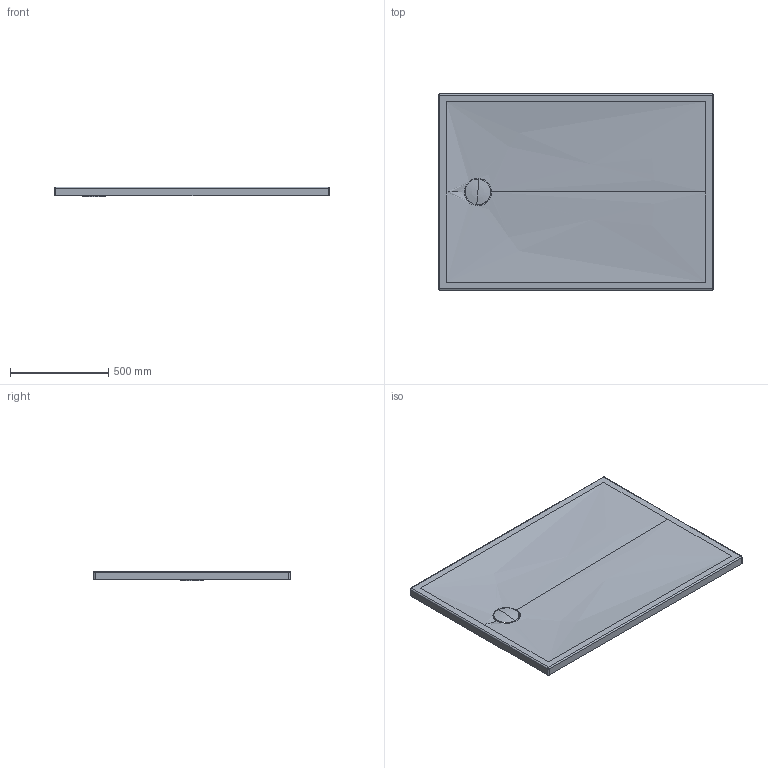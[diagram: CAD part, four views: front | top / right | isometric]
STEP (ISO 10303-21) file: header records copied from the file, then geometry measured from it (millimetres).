
FILE_DESCRIPTION(/* description */ (''),/* implementation_level */ '2;1');
FILE_NAME(/* name */ '720203',/* time_stamp */ '2019-03-05T09:16:04+01:00',/* author */ (''),/* organization */ (''),/* preprocessor_version */ 'ST-DEVELOPER v15',/* originating_system */ '',/* authorisation */ '');
FILE_SCHEMA (('AUTOMOTIVE_DESIGN'));
Length unit declared in the file: millimetre
Products named in the file (1): Document
Bounding box: 1400 x 1000 x 50.23 mm (x, y, z)
Volume: 85786 mm3; surface area: 1657534.8 mm2
Topology: 2 solids, 3 shells, 41 faces, 96 edges, 55 vertices
Faces by surface type: bspline 41
Entity records: 4334 total; most frequent: CARTESIAN_POINT 3205, B_SPLINE_CURVE_WITH_KNOTS 204, ORIENTED_EDGE 170, PCURVE 170, DEFINITIONAL_REPRESENTATION 170, SURFACE_CURVE 90, EDGE_CURVE 90, VERTEX_POINT 55
